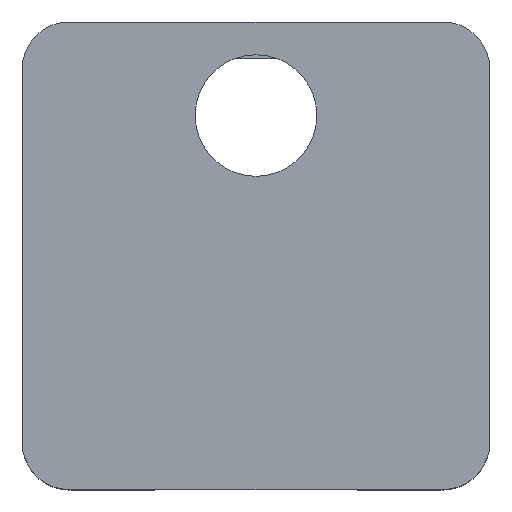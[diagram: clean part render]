
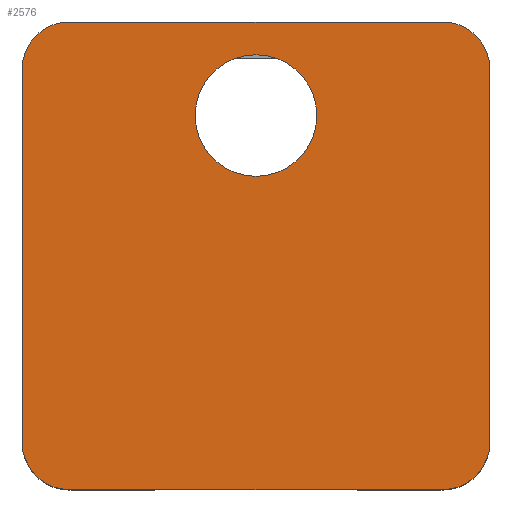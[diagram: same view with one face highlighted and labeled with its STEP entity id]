
A CAD part, top view. The second image highlights one B-rep face of the part: STEP entity #2576.
In plain terms, the highlighted planar face has unit normal (0, 0, 1).
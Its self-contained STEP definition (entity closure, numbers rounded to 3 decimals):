
#1239 = VERTEX_POINT('',#1240);
#1240 = CARTESIAN_POINT('',(3.,0.,21.4));
#1248 = VERTEX_POINT('',#1249);
#1249 = CARTESIAN_POINT('',(0.,3.,21.4));
#1255 = EDGE_CURVE('',#1248,#1239,#1256,.T.);
#1256 = CIRCLE('',#1257,3.);
#1257 = AXIS2_PLACEMENT_3D('',#1258,#1259,#1260);
#1258 = CARTESIAN_POINT('',(3.,3.,21.4));
#1259 = DIRECTION('',(0.,0.,1.));
#1260 = DIRECTION('',(1.,0.,0.));
#1272 = EDGE_CURVE('',#1239,#1273,#1275,.T.);
#1273 = VERTEX_POINT('',#1274);
#1274 = CARTESIAN_POINT('',(27.,0.,21.4));
#1275 = LINE('',#1276,#1277);
#1276 = CARTESIAN_POINT('',(3.,0.,21.4));
#1277 = VECTOR('',#1278,1.);
#1278 = DIRECTION('',(1.,0.,0.));
#1735 = VERTEX_POINT('',#1736);
#1736 = CARTESIAN_POINT('',(30.,3.,21.4));
#1744 = EDGE_CURVE('',#1273,#1735,#1745,.T.);
#1745 = CIRCLE('',#1746,3.);
#1746 = AXIS2_PLACEMENT_3D('',#1747,#1748,#1749);
#1747 = CARTESIAN_POINT('',(27.,3.,21.4));
#1748 = DIRECTION('',(0.,0.,1.));
#1749 = DIRECTION('',(1.,0.,0.));
#1762 = VERTEX_POINT('',#1763);
#1763 = CARTESIAN_POINT('',(30.,27.,21.4));
#1769 = EDGE_CURVE('',#1735,#1762,#1770,.T.);
#1770 = LINE('',#1771,#1772);
#1771 = CARTESIAN_POINT('',(30.,3.,21.4));
#1772 = VECTOR('',#1773,1.);
#1773 = DIRECTION('',(0.,1.,0.));
#1785 = EDGE_CURVE('',#1762,#1786,#1788,.T.);
#1786 = VERTEX_POINT('',#1787);
#1787 = CARTESIAN_POINT('',(27.,30.,21.4));
#1788 = CIRCLE('',#1789,3.);
#1789 = AXIS2_PLACEMENT_3D('',#1790,#1791,#1792);
#1790 = CARTESIAN_POINT('',(27.,27.,21.4));
#1791 = DIRECTION('',(0.,0.,1.));
#1792 = DIRECTION('',(1.,0.,0.));
#1810 = VERTEX_POINT('',#1811);
#1811 = CARTESIAN_POINT('',(3.,30.,21.4));
#1817 = EDGE_CURVE('',#1810,#1786,#1818,.T.);
#1818 = LINE('',#1819,#1820);
#1819 = CARTESIAN_POINT('',(3.,30.,21.4));
#1820 = VECTOR('',#1821,1.);
#1821 = DIRECTION('',(1.,0.,0.));
#1834 = EDGE_CURVE('',#1810,#1835,#1837,.T.);
#1835 = VERTEX_POINT('',#1836);
#1836 = CARTESIAN_POINT('',(0.,27.,21.4));
#1837 = CIRCLE('',#1838,3.);
#1838 = AXIS2_PLACEMENT_3D('',#1839,#1840,#1841);
#1839 = CARTESIAN_POINT('',(3.,27.,21.4));
#1840 = DIRECTION('',(0.,0.,1.));
#1841 = DIRECTION('',(1.,0.,0.));
#1860 = EDGE_CURVE('',#1248,#1835,#1861,.T.);
#1861 = LINE('',#1862,#1863);
#1862 = CARTESIAN_POINT('',(0.,3.,21.4));
#1863 = VECTOR('',#1864,1.);
#1864 = DIRECTION('',(0.,1.,0.));
#2576 = ADVANCED_FACE('',(#2577,#2587),#2598,.T.);
#2577 = FACE_BOUND('',#2578,.T.);
#2578 = EDGE_LOOP('',(#2579,#2580,#2581,#2582,#2583,#2584,#2585,#2586));
#2579 = ORIENTED_EDGE('',*,*,#1255,.T.);
#2580 = ORIENTED_EDGE('',*,*,#1272,.T.);
#2581 = ORIENTED_EDGE('',*,*,#1744,.T.);
#2582 = ORIENTED_EDGE('',*,*,#1769,.T.);
#2583 = ORIENTED_EDGE('',*,*,#1785,.T.);
#2584 = ORIENTED_EDGE('',*,*,#1817,.F.);
#2585 = ORIENTED_EDGE('',*,*,#1834,.T.);
#2586 = ORIENTED_EDGE('',*,*,#1860,.F.);
#2587 = FACE_BOUND('',#2588,.T.);
#2588 = EDGE_LOOP('',(#2589));
#2589 = ORIENTED_EDGE('',*,*,#2590,.T.);
#2590 = EDGE_CURVE('',#2591,#2591,#2593,.T.);
#2591 = VERTEX_POINT('',#2592);
#2592 = CARTESIAN_POINT('',(18.9,24.,21.4));
#2593 = CIRCLE('',#2594,3.9);
#2594 = AXIS2_PLACEMENT_3D('',#2595,#2596,#2597);
#2595 = CARTESIAN_POINT('',(15.,24.,21.4));
#2596 = DIRECTION('',(0.,0.,-1.));
#2597 = DIRECTION('',(1.,0.,0.));
#2598 = PLANE('',#2599);
#2599 = AXIS2_PLACEMENT_3D('',#2600,#2601,#2602);
#2600 = CARTESIAN_POINT('',(15.,15.,21.4));
#2601 = DIRECTION('',(0.,0.,1.));
#2602 = DIRECTION('',(1.,0.,0.));
